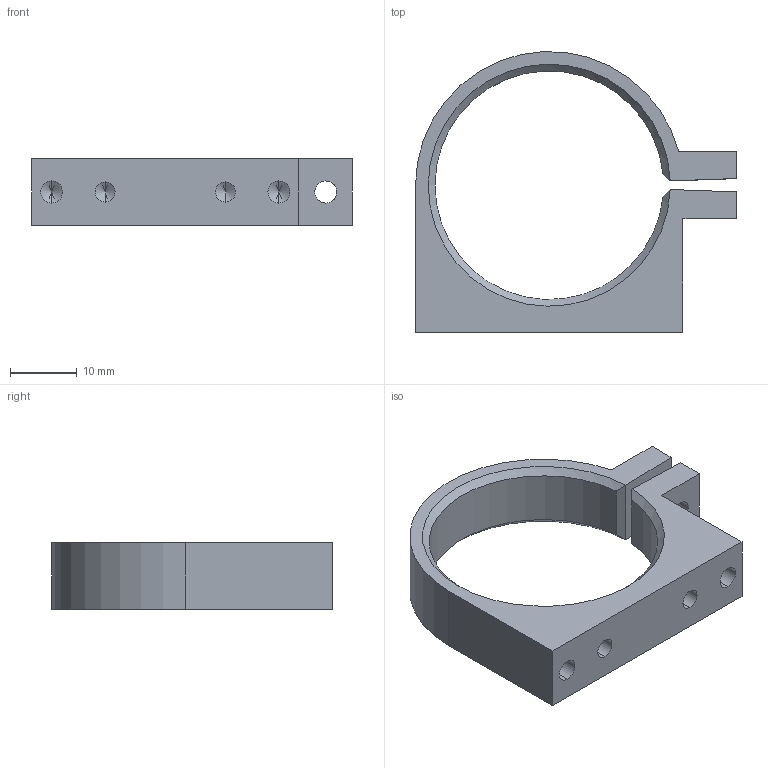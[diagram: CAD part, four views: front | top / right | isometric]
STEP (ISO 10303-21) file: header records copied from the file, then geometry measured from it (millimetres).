
FILE_DESCRIPTION (( 'STEP AP214' ), '1' );
FILE_NAME ('2023-01 - CAMERA BRACKET V2.STEP', '2023-11-26T11:22:51', ( '' ), ( '' ), 'SwSTEP 2.0', 'SolidWorks 2024', '' );
FILE_SCHEMA (( 'AUTOMOTIVE_DESIGN' ));
Length unit declared in the file: millimetre
Products named in the file (1): 2023-01 - CAMERA BRACKET V2
Bounding box: 48 x 41.98 x 10 mm (x, y, z)
Volume: 6061.7 mm3; surface area: 4425.4 mm2
Topology: 1 solids, 1 shells, 39 faces, 98 edges, 57 vertices
Faces by surface type: cylinder 15, plane 13, cone 11
Entity records: 1136 total; most frequent: CARTESIAN_POINT 211, DIRECTION 191, ORIENTED_EDGE 180, EDGE_CURVE 90, AXIS2_PLACEMENT_3D 69, VERTEX_POINT 57, LINE 53, VECTOR 53
